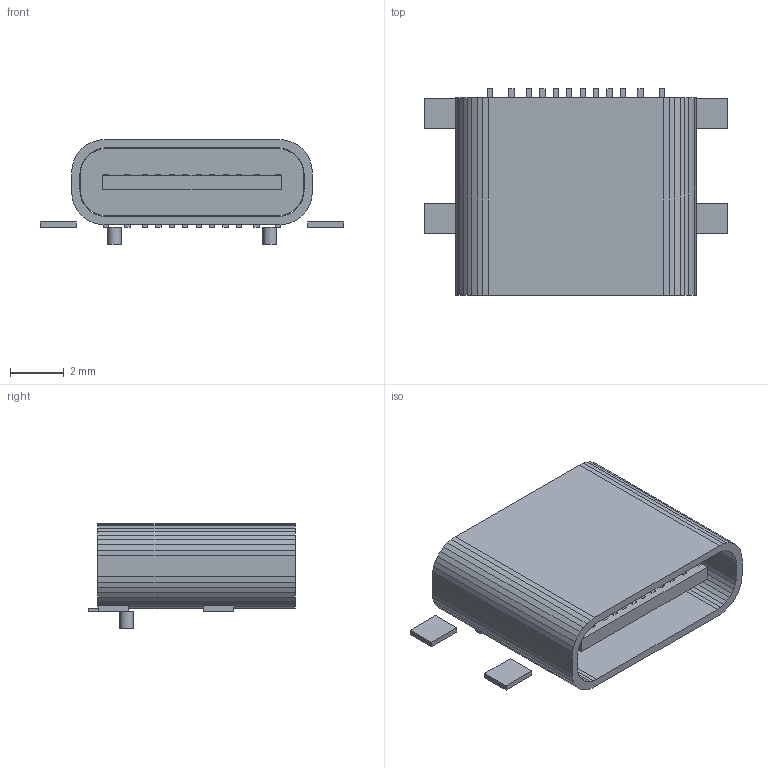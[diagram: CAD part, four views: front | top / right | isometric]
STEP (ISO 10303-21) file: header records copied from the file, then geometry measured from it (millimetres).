
FILE_DESCRIPTION(('Open CASCADE Model'),'2;1');
FILE_NAME('Open CASCADE Shape Model','2026-11-26T16:49:51',('Author'),( 'Open CASCADE'),'Open CASCADE STEP processor 8.0','Open CASCADE 8.0' ,'Unknown');
FILE_SCHEMA(('AUTOMOTIVE_DESIGN { 1 0 10303 214 1 1 1 1 }'));
Length unit declared in the file: millimetre
Products named in the file (33): Drawn shell; Rear insulator; Mating tongue; Locating peg; Surface shell foot; Contact tail; Mating contact
Bounding box: 11.3 x 7.7 x 3.89 mm (x, y, z)
Volume: 97.6 mm3; surface area: 507.3 mm2
Topology: 33 solids, 33 shells, 304 faces, 714 edges, 476 vertices
Faces by surface type: plane 302, cylinder 2
Full cylindrical faces by diameter (mm): 0.5 x2
Entity records: 18247 total; most frequent: CARTESIAN_POINT 3083, DIRECTION 2596, LINE 1974, VECTOR 1974, ORIENTED_EDGE 1428, PCURVE 1428, DEFINITIONAL_REPRESENTATION 1428, EDGE_CURVE 714
